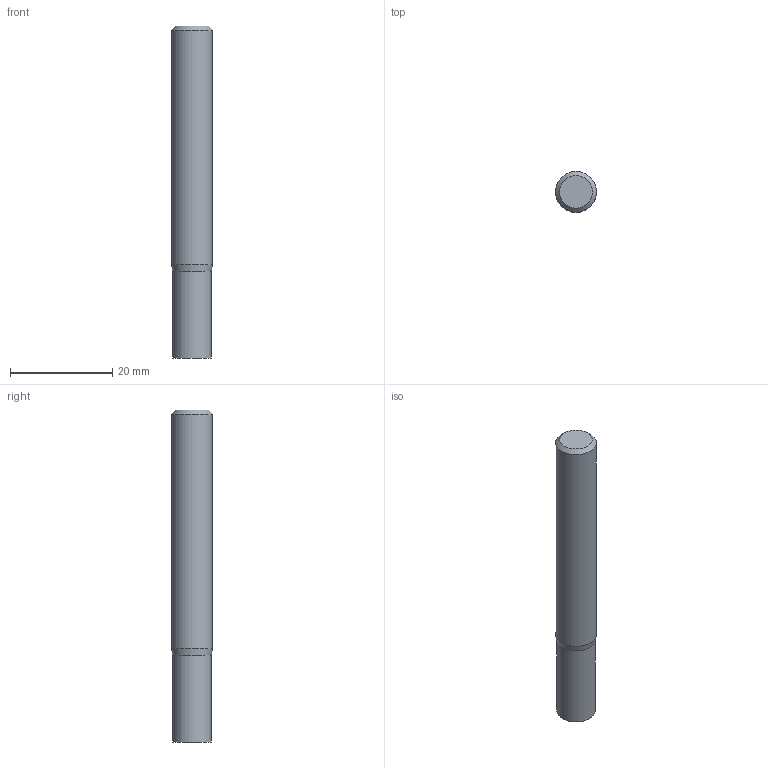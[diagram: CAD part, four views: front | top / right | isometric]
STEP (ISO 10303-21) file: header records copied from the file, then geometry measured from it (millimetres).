
FILE_DESCRIPTION((''),'2;1');
FILE_NAME('C:\Users\nsx150\AppData\Local\Temp\Mastercam 2021\98T1Q6BTT1\TEMP.step','2021-10-21T14:49:26',(''),(''),'STEP Write','Mastercam 2021 ... CNC Software, Inc.','');
FILE_SCHEMA(('AUTOMOTIVE_DESIGN'));
Length unit declared in the file: millimetre
Products named in the file (1): None
Bounding box: 8 x 8 x 65 mm (x, y, z)
Volume: 3173.3 mm3; surface area: 1785.6 mm2
Topology: 2 solids, 2 shells, 8 faces, 10 edges, 6 vertices
Faces by surface type: plane 4, cylinder 2, cone 2
Full cylindrical faces by diameter (mm): 7.6 x1, 8 x1
Entity records: 190 total; most frequent: DIRECTION 32, CARTESIAN_POINT 22, AXIS2_PLACEMENT_3D 16, ORIENTED_EDGE 12, EDGE_LOOP 12, STYLED_ITEM 11, ADVANCED_FACE 8, VERTEX_POINT 6
